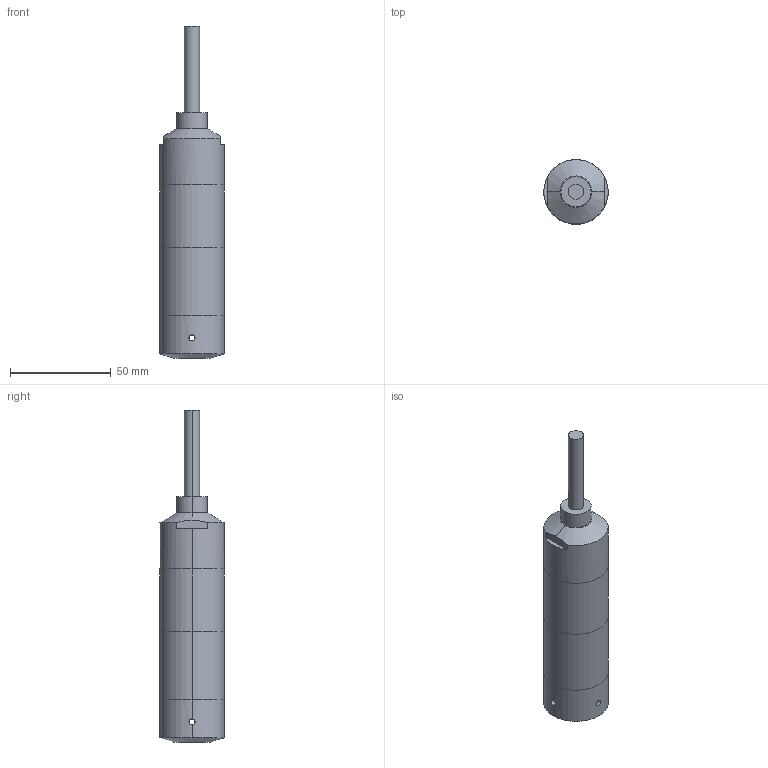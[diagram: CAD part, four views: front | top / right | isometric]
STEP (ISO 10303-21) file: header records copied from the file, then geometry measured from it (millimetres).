
FILE_DESCRIPTION (( 'STEP AP214' ), '1' );
FILE_NAME ('LD33-XXXX.STEP', '2025-06-03T20:20:19', ( '' ), ( '' ), 'SwSTEP 2.0', 'SolidWorks 2013', '' );
FILE_SCHEMA (( 'AUTOMOTIVE_DESIGN' ));
Length unit declared in the file: inch
Products named in the file (1): LD33-XXXX
Bounding box: 32 x 32 x 165 mm (x, y, z)
Volume: 91596.6 mm3; surface area: 20316.5 mm2
Topology: 5 solids, 5 shells, 66 faces, 155 edges, 89 vertices
Faces by surface type: cylinder 46, plane 16, cone 4
Entity records: 3405 total; most frequent: CARTESIAN_POINT 993, ORIENTED_EDGE 310, DIRECTION 296, EDGE_CURVE 155, AXIS2_PLACEMENT_3D 119, VERTEX_POINT 89, EDGE_LOOP 78, LENGTH_MEASURE_WITH_UNIT 73
